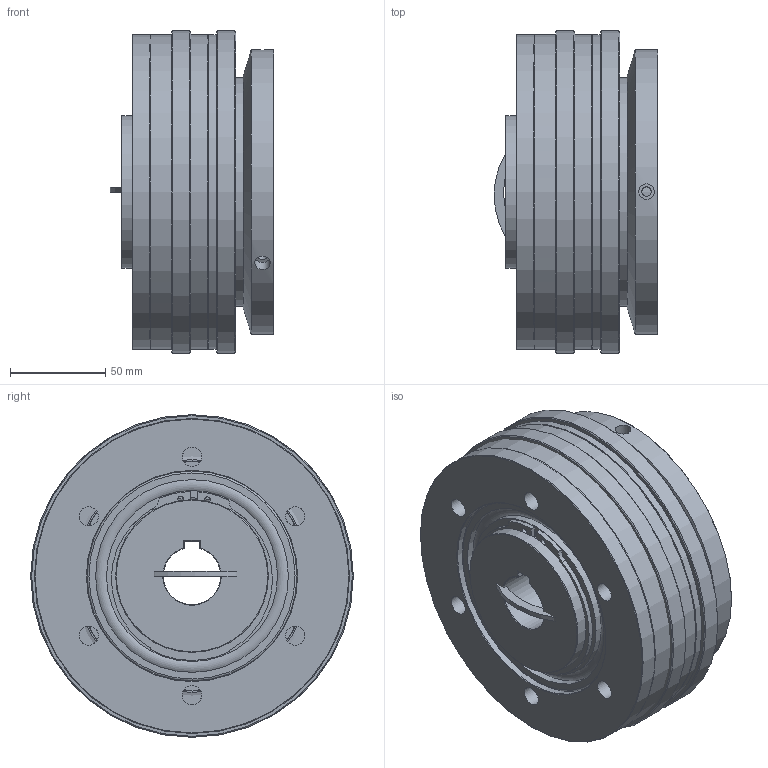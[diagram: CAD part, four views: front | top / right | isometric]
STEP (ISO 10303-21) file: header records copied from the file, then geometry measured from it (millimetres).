
FILE_DESCRIPTION( ( 'Unknown' ), '1' );
FILE_NAME( 'C:/Dokumente und Einstellungen/Sven/Desktop/hp kbk/KBK L-P-1400.stp', 'Unknown', ( 'Unknown' ), ( 'Unknown' ), 'XStep 1.0', 'Unknown', ' ' );
FILE_SCHEMA( ( 'automotive_design' ) );
Length unit declared in the file: millimetre
Products named in the file (10): Assem1; Assem2; ball_bearing_-_61916_0_01_0; ball_bearing_-_61916_0_02_0; ball_bearing_-_61916_0_03_0; KBK L-P-800 Grundkörper_0; Stellring 800_0; Druckring 800_0; Flansch 800_0; a_80_0
Bounding box: 85.85 x 169 x 169 mm (x, y, z)
Surface area: 468077.6 mm2
Topology: 19 solids, 19 shells, 255 faces, 520 edges, 329 vertices
Faces by surface type: cylinder 100, plane 90, cone 40, torus 25
Full cylindrical faces by diameter (mm): 3 x4, 4.917 x6, 6.2 x6, 8.1 x6, 10.106 x12, 76.5 x2, 80 x7, 89.6 x6, 100 x2, 101 x6, 110 x5, 120 x4, 135 x2, 148 x2, 149 x2, 165 x4, 169 x2
Entity records: 3417 total; most frequent: CARTESIAN_POINT 797, DIRECTION 530, ORIENTED_EDGE 320, AXIS2_PLACEMENT_3D 247, EDGE_LOOP 220, FACE_OUTER_BOUND 162, EDGE_CURVE 160, VERTEX_POINT 136
